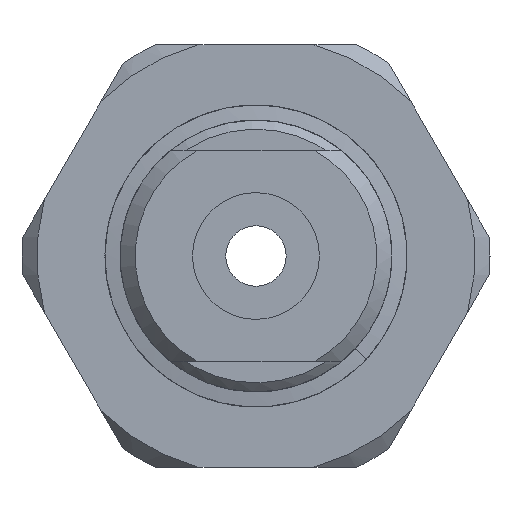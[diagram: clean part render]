
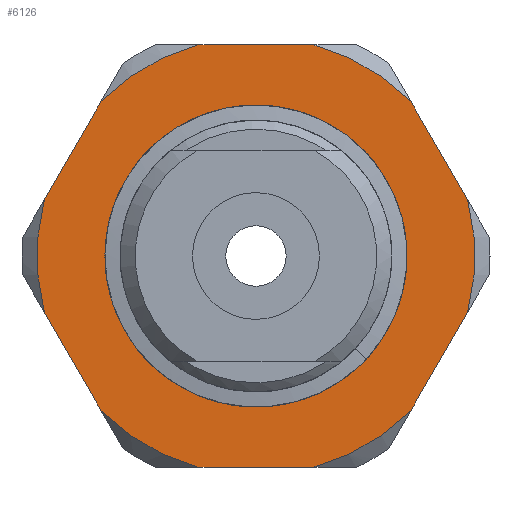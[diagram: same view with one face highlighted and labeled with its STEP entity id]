
A CAD part, front view. The second image highlights one B-rep face of the part: STEP entity #6126.
In plain terms, the highlighted planar face has unit normal (0, -1, 0).
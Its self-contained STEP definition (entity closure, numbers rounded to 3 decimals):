
#362 = DIRECTION ( 'NONE',  ( 0., 1., 0. ) ) ;
#453 = CARTESIAN_POINT ( 'NONE',  ( -5.473, 13.325, 19.135 ) ) ;
#606 = CARTESIAN_POINT ( 'NONE',  ( -4.252, 13.325, 11.75 ) ) ;
#647 = VERTEX_POINT ( 'NONE', #17194 ) ;
#670 = DIRECTION ( 'NONE',  ( 0., 1., 0. ) ) ;
#721 = FACE_BOUND ( 'NONE', #9883, .T. ) ;
#735 = VERTEX_POINT ( 'NONE', #606 ) ;
#1001 = DIRECTION ( 'NONE',  ( 0., 1., 0. ) ) ;
#1116 = ORIENTED_EDGE ( 'NONE', *, *, #16453, .F. ) ;
#1171 = ORIENTED_EDGE ( 'NONE', *, *, #7454, .F. ) ;
#1325 = VECTOR ( 'NONE', #4071, 1000. ) ;
#1366 = EDGE_CURVE ( 'NONE', #12877, #14980, #11738, .T. ) ;
#1424 = CARTESIAN_POINT ( 'NONE',  ( -0.355, 13.325, 14. ) ) ;
#1557 = LINE ( 'NONE', #8907, #15130 ) ;
#1656 = VERTEX_POINT ( 'NONE', #17101 ) ;
#2372 = AXIS2_PLACEMENT_3D ( 'NONE', #7746, #5182, #10643 ) ;
#2733 = CARTESIAN_POINT ( 'NONE',  ( -6.417, 13.325, 10.5 ) ) ;
#2952 = EDGE_CURVE ( 'NONE', #735, #13472, #6944, .T. ) ;
#2981 = CARTESIAN_POINT ( 'NONE',  ( -2.242, 13.325, 21. ) ) ;
#3227 = AXIS2_PLACEMENT_3D ( 'NONE', #15771, #7757, #17107 ) ;
#3279 = EDGE_CURVE ( 'NONE', #16036, #5169, #15502, .T. ) ;
#3452 = EDGE_LOOP ( 'NONE', ( #15757, #5315, #4483, #9125, #1171, #14533, #11852, #13967, #12192, #5279, #1116, #13754 ) ) ;
#3971 = EDGE_CURVE ( 'NONE', #13472, #735, #13125, .T. ) ;
#3994 = EDGE_CURVE ( 'NONE', #647, #4589, #15443, .T. ) ;
#4071 = DIRECTION ( 'NONE',  ( -0.5, 0., -0.866 ) ) ;
#4344 = CARTESIAN_POINT ( 'NONE',  ( -0.355, 13.325, 14. ) ) ;
#4409 = CARTESIAN_POINT ( 'NONE',  ( 2.971, 13.325, 21. ) ) ;
#4418 = CARTESIAN_POINT ( 'NONE',  ( 4.764, 13.325, 8.865 ) ) ;
#4483 = ORIENTED_EDGE ( 'NONE', *, *, #5825, .F. ) ;
#4521 = VECTOR ( 'NONE', #8504, 1000. ) ;
#4589 = VERTEX_POINT ( 'NONE', #10506 ) ;
#4608 = AXIS2_PLACEMENT_3D ( 'NONE', #1424, #16958, #5787 ) ;
#4693 = VERTEX_POINT ( 'NONE', #5324 ) ;
#4729 = ORIENTED_EDGE ( 'NONE', *, *, #2952, .F. ) ;
#5090 = CARTESIAN_POINT ( 'NONE',  ( -0.355, 13.325, 14. ) ) ;
#5169 = VERTEX_POINT ( 'NONE', #9653 ) ;
#5182 = DIRECTION ( 'NONE',  ( 0., 1., 0. ) ) ;
#5279 = ORIENTED_EDGE ( 'NONE', *, *, #16836, .F. ) ;
#5315 = ORIENTED_EDGE ( 'NONE', *, *, #7696, .F. ) ;
#5324 = CARTESIAN_POINT ( 'NONE',  ( -5.473, 13.325, 8.865 ) ) ;
#5404 = EDGE_CURVE ( 'NONE', #13321, #1656, #13056, .T. ) ;
#5787 = DIRECTION ( 'NONE',  ( 0.866, 0., 0.5 ) ) ;
#5825 = EDGE_CURVE ( 'NONE', #14980, #15630, #7012, .T. ) ;
#6126 = ADVANCED_FACE ( 'NONE', ( #721, #11586 ), #12822, .F. ) ;
#6934 = ORIENTED_EDGE ( 'NONE', *, *, #3971, .F. ) ;
#6944 = CIRCLE ( 'NONE', #8816, 4.5 ) ;
#7012 = CIRCLE ( 'NONE', #11593, 7.25 ) ;
#7174 = CIRCLE ( 'NONE', #4608, 7.25 ) ;
#7454 = EDGE_CURVE ( 'NONE', #1656, #12877, #7174, .T. ) ;
#7696 = EDGE_CURVE ( 'NONE', #15630, #13406, #8630, .T. ) ;
#7746 = CARTESIAN_POINT ( 'NONE',  ( -0.355, 13.325, 14. ) ) ;
#7757 = DIRECTION ( 'NONE',  ( 0., 1., 0. ) ) ;
#8067 = CARTESIAN_POINT ( 'NONE',  ( -0.355, 13.325, 14. ) ) ;
#8237 = CARTESIAN_POINT ( 'NONE',  ( 4.044, 13.325, 7.62 ) ) ;
#8387 = LINE ( 'NONE', #2733, #11917 ) ;
#8504 = DIRECTION ( 'NONE',  ( 0.5, 0., -0.866 ) ) ;
#8586 = CARTESIAN_POINT ( 'NONE',  ( -0.355, 13.325, 14. ) ) ;
#8630 = LINE ( 'NONE', #8237, #1325 ) ;
#8816 = AXIS2_PLACEMENT_3D ( 'NONE', #4344, #12455, #14017 ) ;
#8887 = CARTESIAN_POINT ( 'NONE',  ( -0.355, 13.325, 14. ) ) ;
#8907 = CARTESIAN_POINT ( 'NONE',  ( -4.754, 13.325, 20.38 ) ) ;
#8932 = DIRECTION ( 'NONE',  ( -1., 0., 0. ) ) ;
#9125 = ORIENTED_EDGE ( 'NONE', *, *, #1366, .F. ) ;
#9276 = CIRCLE ( 'NONE', #10886, 7.25 ) ;
#9464 = CARTESIAN_POINT ( 'NONE',  ( 6.651, 13.325, 15.865 ) ) ;
#9524 = VECTOR ( 'NONE', #13351, 1000. ) ;
#9653 = CARTESIAN_POINT ( 'NONE',  ( -2.242, 13.325, 7. ) ) ;
#9746 = DIRECTION ( 'NONE',  ( 0.866, 0., 0.5 ) ) ;
#9846 = DIRECTION ( 'NONE',  ( 0., -1., 0. ) ) ;
#9883 = EDGE_LOOP ( 'NONE', ( #6934, #4729 ) ) ;
#9941 = DIRECTION ( 'NONE',  ( 0.866, 0., 0.5 ) ) ;
#10246 = DIRECTION ( 'NONE',  ( 0.866, 0., 0.5 ) ) ;
#10506 = CARTESIAN_POINT ( 'NONE',  ( -7.361, 13.325, 15.865 ) ) ;
#10643 = DIRECTION ( 'NONE',  ( 0.866, 0., 0.5 ) ) ;
#10689 = VERTEX_POINT ( 'NONE', #453 ) ;
#10852 = EDGE_CURVE ( 'NONE', #4589, #10689, #1557, .T. ) ;
#10886 = AXIS2_PLACEMENT_3D ( 'NONE', #8586, #362, #9941 ) ;
#11069 = DIRECTION ( 'NONE',  ( 0.866, 0., 0.5 ) ) ;
#11079 = CARTESIAN_POINT ( 'NONE',  ( 1.533, 13.325, 7. ) ) ;
#11535 = DIRECTION ( 'NONE',  ( 0.866, 0., 0.5 ) ) ;
#11573 = DIRECTION ( 'NONE',  ( 0.5, 0., 0.866 ) ) ;
#11586 = FACE_OUTER_BOUND ( 'NONE', #3452, .T. ) ;
#11591 = DIRECTION ( 'NONE',  ( 0., 1., 0. ) ) ;
#11593 = AXIS2_PLACEMENT_3D ( 'NONE', #8067, #11591, #11535 ) ;
#11738 = LINE ( 'NONE', #15551, #4521 ) ;
#11852 = ORIENTED_EDGE ( 'NONE', *, *, #14753, .F. ) ;
#11917 = VECTOR ( 'NONE', #12280, 1000. ) ;
#11937 = VECTOR ( 'NONE', #8932, 1000. ) ;
#12192 = ORIENTED_EDGE ( 'NONE', *, *, #3994, .F. ) ;
#12280 = DIRECTION ( 'NONE',  ( -0.5, 0., 0.866 ) ) ;
#12455 = DIRECTION ( 'NONE',  ( 0., -1., 0. ) ) ;
#12488 = CARTESIAN_POINT ( 'NONE',  ( 4.764, 13.325, 19.135 ) ) ;
#12550 = AXIS2_PLACEMENT_3D ( 'NONE', #12817, #1001, #9746 ) ;
#12817 = CARTESIAN_POINT ( 'NONE',  ( -10.086, 13.325, 16.854 ) ) ;
#12822 = PLANE ( 'NONE',  #12550 ) ;
#12877 = VERTEX_POINT ( 'NONE', #12488 ) ;
#12988 = CARTESIAN_POINT ( 'NONE',  ( 6.651, 13.325, 12.135 ) ) ;
#13056 = LINE ( 'NONE', #4409, #9524 ) ;
#13125 = CIRCLE ( 'NONE', #17086, 4.5 ) ;
#13321 = VERTEX_POINT ( 'NONE', #2981 ) ;
#13351 = DIRECTION ( 'NONE',  ( 1., 0., 0. ) ) ;
#13406 = VERTEX_POINT ( 'NONE', #4418 ) ;
#13472 = VERTEX_POINT ( 'NONE', #16772 ) ;
#13661 = CIRCLE ( 'NONE', #16929, 7.25 ) ;
#13754 = ORIENTED_EDGE ( 'NONE', *, *, #3279, .F. ) ;
#13955 = CARTESIAN_POINT ( 'NONE',  ( -3.681, 13.325, 7. ) ) ;
#13967 = ORIENTED_EDGE ( 'NONE', *, *, #10852, .F. ) ;
#14017 = DIRECTION ( 'NONE',  ( 0.866, 0., 0.5 ) ) ;
#14533 = ORIENTED_EDGE ( 'NONE', *, *, #5404, .F. ) ;
#14637 = CIRCLE ( 'NONE', #3227, 7.25 ) ;
#14753 = EDGE_CURVE ( 'NONE', #10689, #13321, #13661, .T. ) ;
#14980 = VERTEX_POINT ( 'NONE', #9464 ) ;
#15130 = VECTOR ( 'NONE', #11573, 1000. ) ;
#15177 = EDGE_CURVE ( 'NONE', #13406, #16036, #9276, .T. ) ;
#15443 = CIRCLE ( 'NONE', #2372, 7.25 ) ;
#15502 = LINE ( 'NONE', #13955, #11937 ) ;
#15551 = CARTESIAN_POINT ( 'NONE',  ( 5.707, 13.325, 17.5 ) ) ;
#15630 = VERTEX_POINT ( 'NONE', #12988 ) ;
#15757 = ORIENTED_EDGE ( 'NONE', *, *, #15177, .F. ) ;
#15771 = CARTESIAN_POINT ( 'NONE',  ( -0.355, 13.325, 14. ) ) ;
#16036 = VERTEX_POINT ( 'NONE', #11079 ) ;
#16453 = EDGE_CURVE ( 'NONE', #5169, #4693, #14637, .T. ) ;
#16772 = CARTESIAN_POINT ( 'NONE',  ( 3.542, 13.325, 16.25 ) ) ;
#16836 = EDGE_CURVE ( 'NONE', #4693, #647, #8387, .T. ) ;
#16929 = AXIS2_PLACEMENT_3D ( 'NONE', #8887, #670, #10246 ) ;
#16958 = DIRECTION ( 'NONE',  ( 0., 1., 0. ) ) ;
#17086 = AXIS2_PLACEMENT_3D ( 'NONE', #5090, #9846, #11069 ) ;
#17101 = CARTESIAN_POINT ( 'NONE',  ( 1.533, 13.325, 21. ) ) ;
#17107 = DIRECTION ( 'NONE',  ( 0.866, 0., 0.5 ) ) ;
#17194 = CARTESIAN_POINT ( 'NONE',  ( -7.361, 13.325, 12.135 ) ) ;
